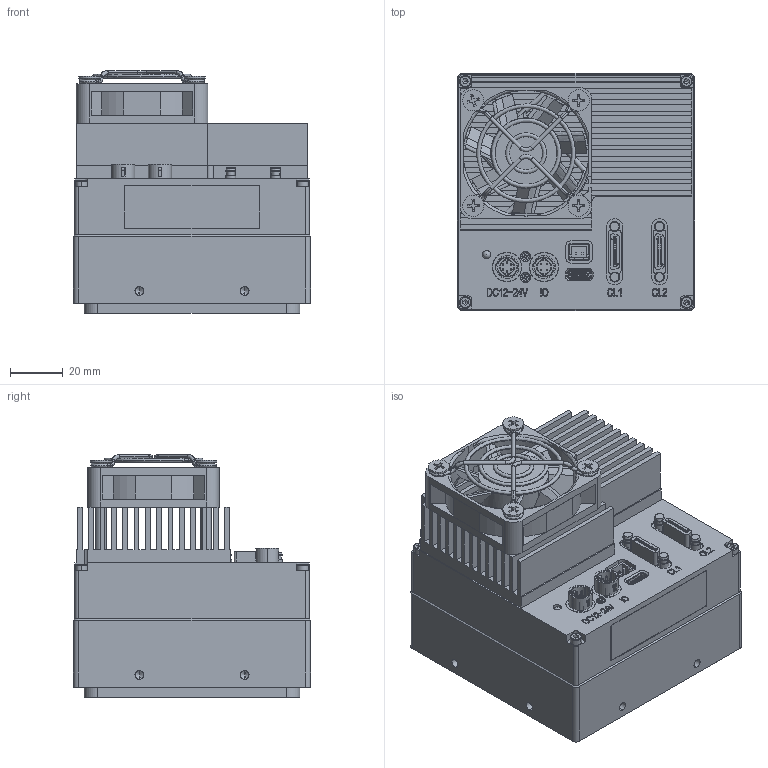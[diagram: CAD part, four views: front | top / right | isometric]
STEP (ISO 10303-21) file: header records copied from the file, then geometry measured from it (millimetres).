
FILE_DESCRIPTION (( 'STEP AP203' ), '1' );
FILE_NAME ('TTS120MCL-7M(C)-A02-V1.0.0 三维模型.STEP', '2023-03-14T02:28:14', ( '微软用户' ), ( '微软中国' ), 'SwSTEP 2.0', 'SolidWorks 2017', '' );
FILE_SCHEMA (( 'CONFIG_CONTROL_DESIGN' ));
Products named in the file (1): TTS120MCL-7M(C)-A02-V1.0.0 三维模型
Bounding box: 90 x 90 x 92.15 mm (x, y, z)
Volume: 225569.5 mm3; surface area: 143782.6 mm2
Topology: 61 solids, 61 shells, 4744 faces, 12842 edges, 8223 vertices
Faces by surface type: plane 3037, cylinder 1201, bspline 257, cone 222, torus 16, sphere 11
Entity records: 157306 total; most frequent: CARTESIAN_POINT 40267, ORIENTED_EDGE 25470, DIRECTION 22596, EDGE_CURVE 12735, LINE 8756, VECTOR 8756, VERTEX_POINT 8209, AXIS2_PLACEMENT_3D 6920
